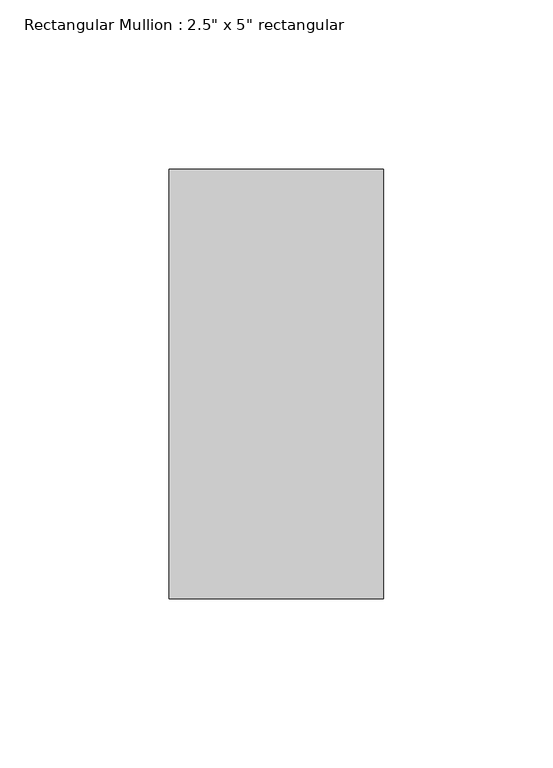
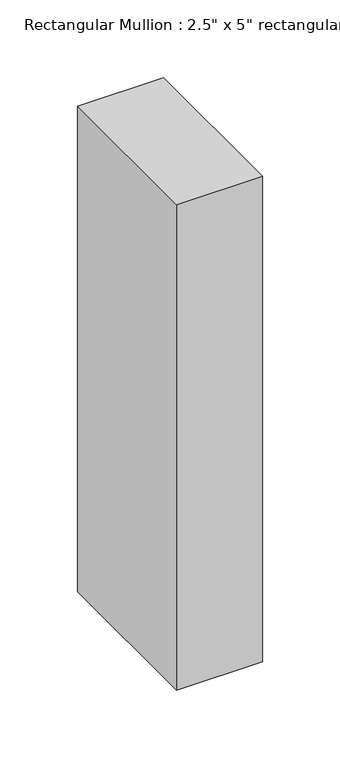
"""IFC4 building model written with IfcOpenShell, lengths in millimetres: member geometry."""

from ifc_helpers import new_model, si_unit, frame, origin, place, context, project, spatial, polyline, outline, extrude, source, transform, mapped, element, save


def member_44404943(model_context):
    return source(origin(), model_context, "Body", "SweptSolid", [
        extrude(outline(polyline([(31.75, 63.5), (31.75, -63.5), (-31.75, -63.5), (-31.75, 63.5), (31.75, 63.5)])), frame((0.0, 0.0, -380.4215904), z_axis=(0.0, 0.0, 1.0), x_axis=(1.0, 0.0, 0.0)), (0.0, 0.0, 1.0), 380.4215904),
    ])


if __name__ == "__main__":
    model = new_model("IFC4")
    model_context = context("Model", 3, world=origin())
    ifc_project = project(units=[si_unit("LENGTHUNIT", "METRE", prefix="MILLI")], contexts=[model_context])
    site = spatial("IfcSite", under=ifc_project)
    building = spatial("IfcBuilding", under=site)
    placement = place(None, origin())
    member_shape = member_44404943(model_context)
    element("IfcMember", 1, ObjectType="Rectangular Mullion : 2.5\" x 5\" rectangular", at=placement, inside=building, context=model_context, shape_type="MappedRepresentation", body=[
        mapped(member_shape, transform((0.0, 0.0, 0.0), x_axis=(1.0, 0.0, 0.0), y_axis=(0.0, 1.0, 0.0), z_axis=(0.0, 0.0, 1.0))),
    ])
    save(model, "model.ifc")
